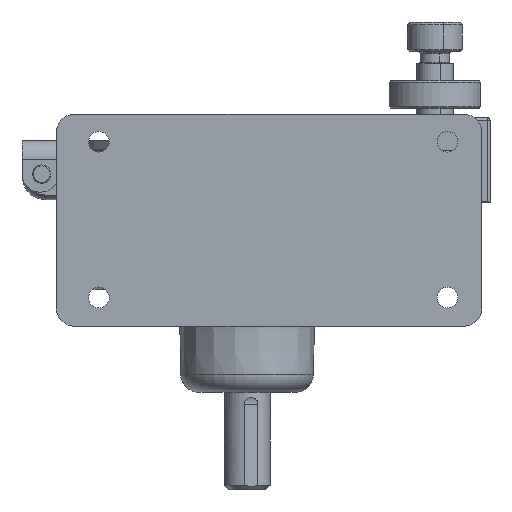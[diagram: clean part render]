
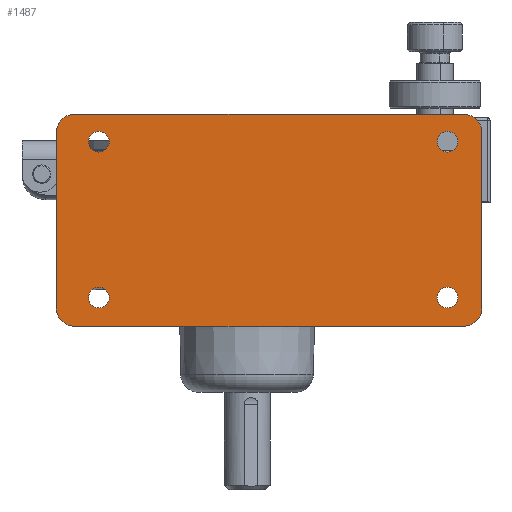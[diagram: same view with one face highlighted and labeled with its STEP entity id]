
A CAD part, front view. The second image highlights one B-rep face of the part: STEP entity #1487.
In plain terms, the highlighted planar face has unit normal (0, -1, 0).
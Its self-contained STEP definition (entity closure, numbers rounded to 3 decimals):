
#80 = CIRCLE ( 'NONE', #8332, 6.35 ) ;
#184 = CIRCLE ( 'NONE', #8367, 3.572 ) ;
#201 = LINE ( 'NONE', #7438, #205 ) ;
#205 = VECTOR ( 'NONE', #7433, 1000. ) ;
#583 = DIRECTION ( 'NONE',  ( 0., 0., 1. ) ) ;
#586 = CARTESIAN_POINT ( 'NONE',  ( -236.095, -176.17, 93.315 ) ) ;
#587 = PLANE ( 'NONE',  #11764 ) ;
#590 = DIRECTION ( 'NONE',  ( 0., 1., 0. ) ) ;
#868 = CIRCLE ( 'NONE', #8624, 3.572 ) ;
#1433 = CARTESIAN_POINT ( 'NONE',  ( -199.415, -176.17, 179.997 ) ) ;
#1434 = DIRECTION ( 'NONE',  ( 0., 1., 0. ) ) ;
#1435 = DIRECTION ( 'NONE',  ( 0., 0., 1. ) ) ;
#1487 = ADVANCED_FACE ( 'NONE', ( #2843, #2833, #2844, #2842, #2840 ), #587, .F. ) ;
#1592 = VERTEX_POINT ( 'NONE', #3234 ) ;
#1604 = VERTEX_POINT ( 'NONE', #3280 ) ;
#1606 = VERTEX_POINT ( 'NONE', #3313 ) ;
#1608 = VERTEX_POINT ( 'NONE', #3308 ) ;
#1609 = VERTEX_POINT ( 'NONE', #3310 ) ;
#1611 = VERTEX_POINT ( 'NONE', #3305 ) ;
#1622 = VERTEX_POINT ( 'NONE', #8074 ) ;
#2238 = CIRCLE ( 'NONE', #11571, 6.35 ) ;
#2239 = CIRCLE ( 'NONE', #11580, 3.572 ) ;
#2240 = CIRCLE ( 'NONE', #11576, 6.35 ) ;
#2272 = CIRCLE ( 'NONE', #11592, 3.572 ) ;
#2291 = LINE ( 'NONE', #11824, #2293 ) ;
#2293 = VECTOR ( 'NONE', #11825, 1000. ) ;
#2369 = CIRCLE ( 'NONE', #11617, 3.572 ) ;
#2463 = LINE ( 'NONE', #3727, #2466 ) ;
#2466 = VECTOR ( 'NONE', #3670, 1000. ) ;
#2833 = FACE_BOUND ( 'NONE', #9359, .T. ) ;
#2840 = FACE_OUTER_BOUND ( 'NONE', #9462, .T. ) ;
#2842 = FACE_BOUND ( 'NONE', #9451, .T. ) ;
#2843 = FACE_BOUND ( 'NONE', #9484, .T. ) ;
#2844 = FACE_BOUND ( 'NONE', #9460, .T. ) ;
#3234 = CARTESIAN_POINT ( 'NONE',  ( -214.147, -176.17, 183.172 ) ) ;
#3280 = CARTESIAN_POINT ( 'NONE',  ( -199.415, -176.17, 183.569 ) ) ;
#3305 = CARTESIAN_POINT ( 'NONE',  ( -199.415, -176.17, 122.45 ) ) ;
#3308 = CARTESIAN_POINT ( 'NONE',  ( -78.765, -176.17, 129.594 ) ) ;
#3310 = CARTESIAN_POINT ( 'NONE',  ( -199.415, -176.17, 176.425 ) ) ;
#3313 = CARTESIAN_POINT ( 'NONE',  ( -78.765, -176.17, 176.425 ) ) ;
#3448 = CIRCLE ( 'NONE', #11410, 3.572 ) ;
#3546 = LINE ( 'NONE', #6108, #3548 ) ;
#3548 = VECTOR ( 'NONE', #6140, 1000. ) ;
#3580 = CIRCLE ( 'NONE', #11453, 3.572 ) ;
#3630 = CIRCLE ( 'NONE', #11387, 6.35 ) ;
#3670 = DIRECTION ( 'NONE',  ( -1., 0., 0. ) ) ;
#3727 = CARTESIAN_POINT ( 'NONE',  ( -207.797, -176.17, 116.116 ) ) ;
#4158 = ORIENTED_EDGE ( 'NONE', *, *, #5180, .T. ) ;
#4160 = ORIENTED_EDGE ( 'NONE', *, *, #5624, .T. ) ;
#4169 = ORIENTED_EDGE ( 'NONE', *, *, #5246, .T. ) ;
#4170 = ORIENTED_EDGE ( 'NONE', *, *, #5481, .F. ) ;
#4182 = ORIENTED_EDGE ( 'NONE', *, *, #6620, .F. ) ;
#4186 = ORIENTED_EDGE ( 'NONE', *, *, #5158, .T. ) ;
#4219 = ORIENTED_EDGE ( 'NONE', *, *, #5541, .F. ) ;
#4220 = ORIENTED_EDGE ( 'NONE', *, *, #5314, .F. ) ;
#4225 = ORIENTED_EDGE ( 'NONE', *, *, #5507, .T. ) ;
#4226 = ORIENTED_EDGE ( 'NONE', *, *, #6706, .F. ) ;
#4322 = CARTESIAN_POINT ( 'NONE',  ( -199.415, -176.17, 126.022 ) ) ;
#4364 = DIRECTION ( 'NONE',  ( 0., 1., 0. ) ) ;
#4390 = DIRECTION ( 'NONE',  ( 0., 0., 1. ) ) ;
#4811 = VERTEX_POINT ( 'NONE', #8191 ) ;
#4812 = VERTEX_POINT ( 'NONE', #8192 ) ;
#4813 = VERTEX_POINT ( 'NONE', #8189 ) ;
#5110 = VERTEX_POINT ( 'NONE', #11156 ) ;
#5112 = VERTEX_POINT ( 'NONE', #12101 ) ;
#5152 = EDGE_CURVE ( 'NONE', #4813, #5112, #2238, .T. ) ;
#5154 = EDGE_CURVE ( 'NONE', #4812, #4811, #2240, .T. ) ;
#5158 = EDGE_CURVE ( 'NONE', #1604, #1609, #2239, .T. ) ;
#5180 = EDGE_CURVE ( 'NONE', #9175, #1608, #2272, .T. ) ;
#5190 = EDGE_CURVE ( 'NONE', #4813, #5110, #2291, .T. ) ;
#5246 = EDGE_CURVE ( 'NONE', #1606, #5764, #2369, .T. ) ;
#5314 = EDGE_CURVE ( 'NONE', #5112, #4812, #2463, .T. ) ;
#5414 = EDGE_CURVE ( 'NONE', #1611, #1622, #3448, .T. ) ;
#5481 = EDGE_CURVE ( 'NONE', #9425, #5792, #3546, .T. ) ;
#5507 = EDGE_CURVE ( 'NONE', #5764, #1606, #3580, .T. ) ;
#5541 = EDGE_CURVE ( 'NONE', #5792, #5110, #3630, .T. ) ;
#5624 = EDGE_CURVE ( 'NONE', #1608, #9175, #11105, .T. ) ;
#5764 = VERTEX_POINT ( 'NONE', #10543 ) ;
#5792 = VERTEX_POINT ( 'NONE', #10563 ) ;
#6108 = CARTESIAN_POINT ( 'NONE',  ( -207.797, -176.17, 189.522 ) ) ;
#6113 = DIRECTION ( 'NONE',  ( 0., 1., 0. ) ) ;
#6137 = DIRECTION ( 'NONE',  ( 0., 1., 0. ) ) ;
#6140 = DIRECTION ( 'NONE',  ( 1., 0., 0. ) ) ;
#6143 = CARTESIAN_POINT ( 'NONE',  ( -73.177, -176.17, 183.172 ) ) ;
#6182 = DIRECTION ( 'NONE',  ( 0., 0., 1. ) ) ;
#6191 = DIRECTION ( 'NONE',  ( 0., 0., 1. ) ) ;
#6196 = CARTESIAN_POINT ( 'NONE',  ( -78.765, -176.17, 179.997 ) ) ;
#6510 = EDGE_CURVE ( 'NONE', #1609, #1604, #868, .T. ) ;
#6620 = EDGE_CURVE ( 'NONE', #1592, #9425, #80, .T. ) ;
#6699 = EDGE_CURVE ( 'NONE', #1622, #1611, #184, .T. ) ;
#6706 = EDGE_CURVE ( 'NONE', #4811, #1592, #201, .T. ) ;
#7193 = CARTESIAN_POINT ( 'NONE',  ( -207.797, -176.17, 183.172 ) ) ;
#7194 = DIRECTION ( 'NONE',  ( 0., 1., 0. ) ) ;
#7195 = DIRECTION ( 'NONE',  ( 0., 0., 1. ) ) ;
#7421 = CARTESIAN_POINT ( 'NONE',  ( -199.415, -176.17, 126.022 ) ) ;
#7422 = DIRECTION ( 'NONE',  ( 0., 1., 0. ) ) ;
#7423 = DIRECTION ( 'NONE',  ( 0., 0., 1. ) ) ;
#7433 = DIRECTION ( 'NONE',  ( 0., 0., 1. ) ) ;
#7438 = CARTESIAN_POINT ( 'NONE',  ( -214.147, -176.17, 156.756 ) ) ;
#7859 = ORIENTED_EDGE ( 'NONE', *, *, #5154, .F. ) ;
#7861 = ORIENTED_EDGE ( 'NONE', *, *, #5190, .T. ) ;
#7862 = ORIENTED_EDGE ( 'NONE', *, *, #6699, .T. ) ;
#7863 = ORIENTED_EDGE ( 'NONE', *, *, #6510, .T. ) ;
#7865 = ORIENTED_EDGE ( 'NONE', *, *, #5414, .T. ) ;
#8074 = CARTESIAN_POINT ( 'NONE',  ( -199.415, -176.17, 129.594 ) ) ;
#8189 = CARTESIAN_POINT ( 'NONE',  ( -66.827, -176.17, 122.466 ) ) ;
#8191 = CARTESIAN_POINT ( 'NONE',  ( -214.147, -176.17, 122.466 ) ) ;
#8192 = CARTESIAN_POINT ( 'NONE',  ( -207.797, -176.17, 116.116 ) ) ;
#8332 = AXIS2_PLACEMENT_3D ( 'NONE', #7193, #7194, #7195 ) ;
#8367 = AXIS2_PLACEMENT_3D ( 'NONE', #7421, #7422, #7423 ) ;
#8624 = AXIS2_PLACEMENT_3D ( 'NONE', #1433, #1434, #1435 ) ;
#9154 = ORIENTED_EDGE ( 'NONE', *, *, #5152, .F. ) ;
#9175 = VERTEX_POINT ( 'NONE', #12832 ) ;
#9359 = EDGE_LOOP ( 'NONE', ( #7863, #4186 ) ) ;
#9425 = VERTEX_POINT ( 'NONE', #12898 ) ;
#9451 = EDGE_LOOP ( 'NONE', ( #4169, #4225 ) ) ;
#9460 = EDGE_LOOP ( 'NONE', ( #4158, #4160 ) ) ;
#9462 = EDGE_LOOP ( 'NONE', ( #4226, #7859, #4220, #9154, #7861, #4219, #4170, #4182 ) ) ;
#9484 = EDGE_LOOP ( 'NONE', ( #7865, #7862 ) ) ;
#10382 = CARTESIAN_POINT ( 'NONE',  ( -78.765, -176.17, 126.022 ) ) ;
#10383 = DIRECTION ( 'NONE',  ( 0., 1., 0. ) ) ;
#10384 = DIRECTION ( 'NONE',  ( 0., 0., 1. ) ) ;
#10543 = CARTESIAN_POINT ( 'NONE',  ( -78.765, -176.17, 183.569 ) ) ;
#10563 = CARTESIAN_POINT ( 'NONE',  ( -73.177, -176.17, 189.522 ) ) ;
#11105 = CIRCLE ( 'NONE', #11354, 3.572 ) ;
#11156 = CARTESIAN_POINT ( 'NONE',  ( -66.827, -176.17, 183.172 ) ) ;
#11354 = AXIS2_PLACEMENT_3D ( 'NONE', #10382, #10383, #10384 ) ;
#11387 = AXIS2_PLACEMENT_3D ( 'NONE', #6143, #6137, #6191 ) ;
#11410 = AXIS2_PLACEMENT_3D ( 'NONE', #4322, #4364, #4390 ) ;
#11453 = AXIS2_PLACEMENT_3D ( 'NONE', #6196, #6113, #6182 ) ;
#11571 = AXIS2_PLACEMENT_3D ( 'NONE', #12145, #12144, #12142 ) ;
#11576 = AXIS2_PLACEMENT_3D ( 'NONE', #11814, #11813, #11812 ) ;
#11580 = AXIS2_PLACEMENT_3D ( 'NONE', #11800, #11799, #11801 ) ;
#11592 = AXIS2_PLACEMENT_3D ( 'NONE', #11913, #11987, #11894 ) ;
#11617 = AXIS2_PLACEMENT_3D ( 'NONE', #12104, #12105, #12107 ) ;
#11764 = AXIS2_PLACEMENT_3D ( 'NONE', #586, #590, #583 ) ;
#11799 = DIRECTION ( 'NONE',  ( 0., 1., 0. ) ) ;
#11800 = CARTESIAN_POINT ( 'NONE',  ( -199.415, -176.17, 179.997 ) ) ;
#11801 = DIRECTION ( 'NONE',  ( 0., 0., 1. ) ) ;
#11812 = DIRECTION ( 'NONE',  ( 0., 0., 1. ) ) ;
#11813 = DIRECTION ( 'NONE',  ( 0., 1., 0. ) ) ;
#11814 = CARTESIAN_POINT ( 'NONE',  ( -207.797, -176.17, 122.466 ) ) ;
#11824 = CARTESIAN_POINT ( 'NONE',  ( -66.827, -176.17, 157.772 ) ) ;
#11825 = DIRECTION ( 'NONE',  ( 0., 0., 1. ) ) ;
#11894 = DIRECTION ( 'NONE',  ( 0., 0., 1. ) ) ;
#11913 = CARTESIAN_POINT ( 'NONE',  ( -78.765, -176.17, 126.022 ) ) ;
#11987 = DIRECTION ( 'NONE',  ( 0., 1., 0. ) ) ;
#12101 = CARTESIAN_POINT ( 'NONE',  ( -73.177, -176.17, 116.116 ) ) ;
#12104 = CARTESIAN_POINT ( 'NONE',  ( -78.765, -176.17, 179.997 ) ) ;
#12105 = DIRECTION ( 'NONE',  ( 0., 1., 0. ) ) ;
#12107 = DIRECTION ( 'NONE',  ( 0., 0., 1. ) ) ;
#12142 = DIRECTION ( 'NONE',  ( 0., 0., 1. ) ) ;
#12144 = DIRECTION ( 'NONE',  ( 0., 1., 0. ) ) ;
#12145 = CARTESIAN_POINT ( 'NONE',  ( -73.177, -176.17, 122.466 ) ) ;
#12832 = CARTESIAN_POINT ( 'NONE',  ( -78.765, -176.17, 122.45 ) ) ;
#12898 = CARTESIAN_POINT ( 'NONE',  ( -207.797, -176.17, 189.522 ) ) ;
